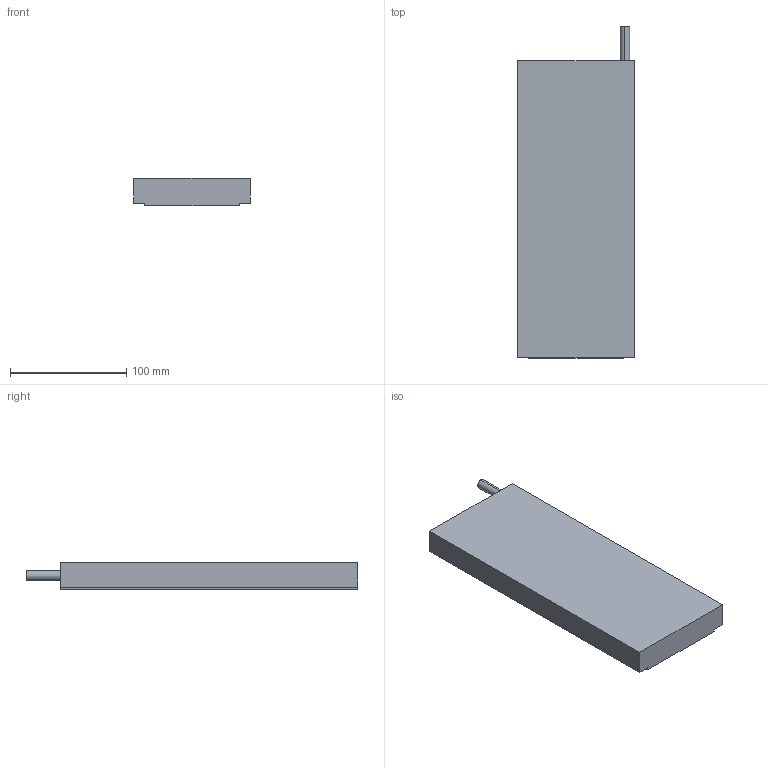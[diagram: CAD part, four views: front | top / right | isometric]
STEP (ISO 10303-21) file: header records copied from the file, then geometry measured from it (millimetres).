
FILE_DESCRIPTION (( 'STEP AP214' ), '1' );
FILE_NAME ('FL-100-255.STEP', '2021-04-27T05:37:29', ( '' ), ( '' ), 'SwSTEP 2.0', 'SolidWorks 2016', '' );
FILE_SCHEMA (( 'AUTOMOTIVE_DESIGN' ));
Length unit declared in the file: millimetre
Products named in the file (1): FL-100-255
Bounding box: 100 x 285 x 23.2 mm (x, y, z)
Volume: 582628.5 mm3; surface area: 69390 mm2
Topology: 1 solids, 1 shells, 149 faces, 370 edges, 190 vertices
Faces by surface type: cylinder 70, cone 68, plane 11
Entity records: 4158 total; most frequent: DIRECTION 742, CARTESIAN_POINT 642, ORIENTED_EDGE 604, EDGE_CURVE 302, AXIS2_PLACEMENT_3D 290, VERTEX_POINT 190, EDGE_LOOP 184, LINE 162
